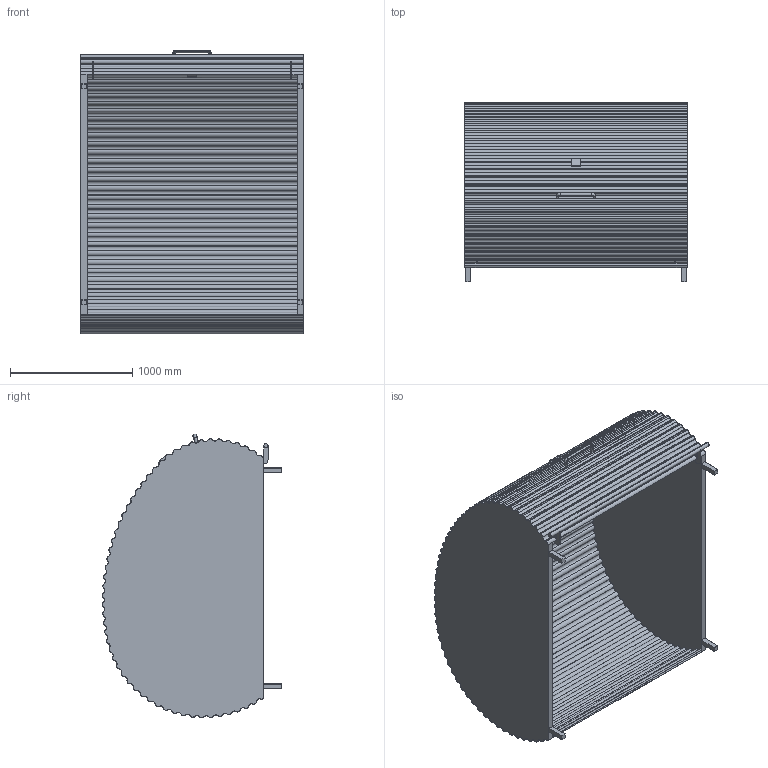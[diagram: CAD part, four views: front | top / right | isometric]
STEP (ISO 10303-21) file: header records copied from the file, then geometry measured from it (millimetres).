
FILE_DESCRIPTION (( 'STEP AP214' ), '1' );
FILE_NAME ('FHG lean model 183.STEP', '2025-03-10T11:03:59', ( '' ), ( '' ), 'SwSTEP 2.0', 'SolidWorks 2023', '' );
FILE_SCHEMA (( 'AUTOMOTIVE_DESIGN' ));
Length unit declared in the file: millimetre
Products named in the file (1): FHG lean model 183
Bounding box: 1830 x 1471.44 x 2326.47 mm (x, y, z)
Volume: 15829925.1 mm3; surface area: 28179999.1 mm2
Topology: 1 solids, 1 shells, 468 faces, 1358 edges, 892 vertices
Faces by surface type: cylinder 366, plane 82, torus 20
Entity records: 16149 total; most frequent: CARTESIAN_POINT 3067, DIRECTION 3036, ORIENTED_EDGE 2716, EDGE_CURVE 1358, AXIS2_PLACEMENT_3D 1241, VERTEX_POINT 892, CIRCLE 772, VECTOR 554
